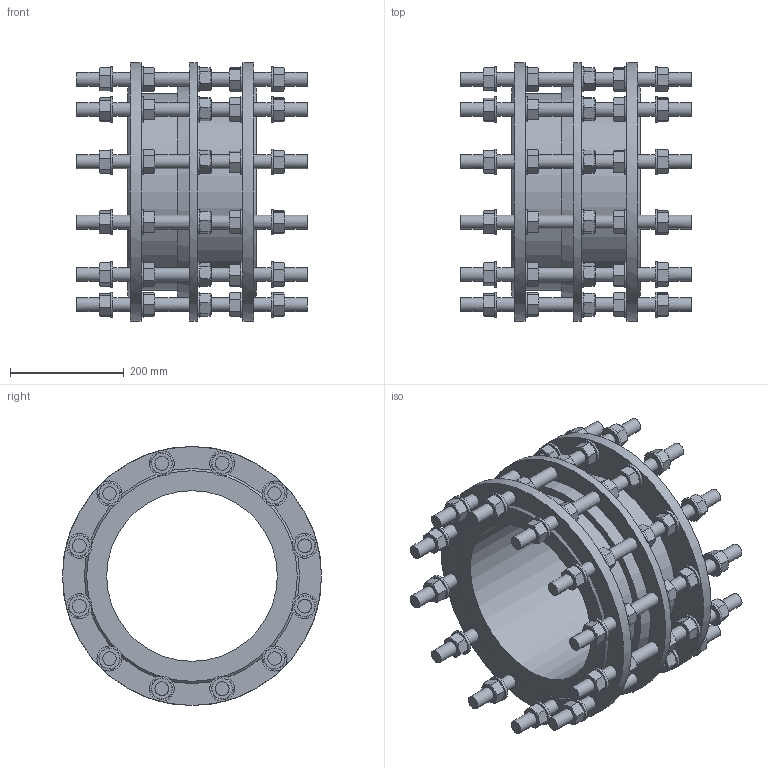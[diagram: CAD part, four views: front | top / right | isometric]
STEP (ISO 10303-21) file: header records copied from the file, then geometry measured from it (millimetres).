
FILE_DESCRIPTION (( 'STEP AP203' ), '1' );
FILE_NAME ('O_265_910_DN300_1XXXXX00_L=225_REV01.step', '2024-10-11T09:03:32', ( '' ), ( '' ), 'SwSTEP 2.0', 'SolidWorks 2022', '' );
FILE_SCHEMA (( 'CONFIG_CONTROL_DESIGN' ));
Length unit declared in the file: millimetre
Products named in the file (1): O_265_910_DN300_1XXXXX00_L=225_REV01
Bounding box: 405 x 455 x 455 mm (x, y, z)
Volume: 10953713.9 mm3; surface area: 1380825.4 mm2
Topology: 1 solids, 1 shells, 1439 faces, 3151 edges, 1893 vertices
Faces by surface type: cone 723, plane 576, cylinder 140
Full cylindrical faces by diameter (mm): 24 x72, 44 x60, 300 x1, 315 x1, 345 x1, 455 x3
Entity records: 44526 total; most frequent: CARTESIAN_POINT 16229, ORIENTED_EDGE 5826, DIRECTION 5359, EDGE_CURVE 2913, AXIS2_PLACEMENT_3D 2446, EDGE_LOOP 1809, VERTEX_POINT 1796, FACE_OUTER_BOUND 1577
